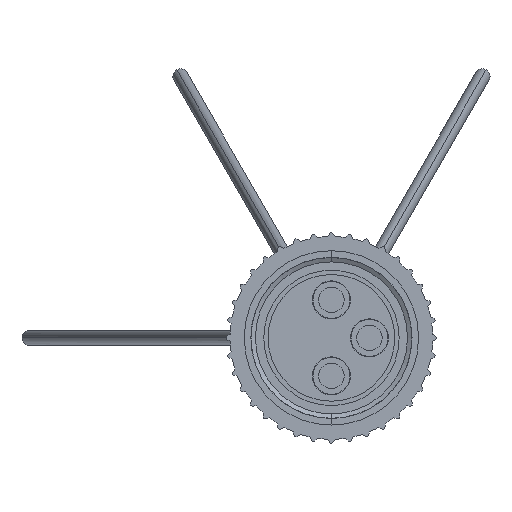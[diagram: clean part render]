
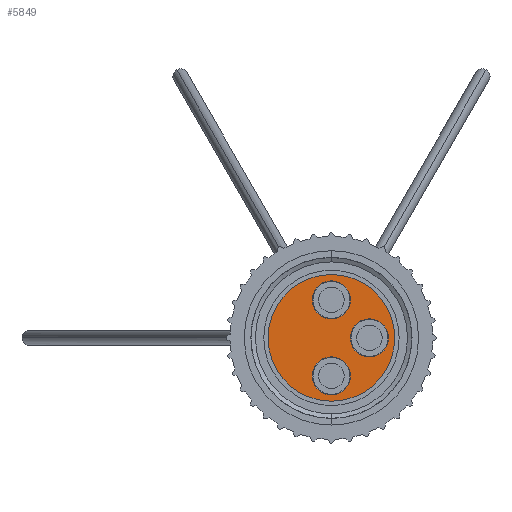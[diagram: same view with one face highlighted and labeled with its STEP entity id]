
A CAD part, front view. The second image highlights one B-rep face of the part: STEP entity #5849.
In plain terms, the highlighted planar face has unit normal (0, -1, 0).
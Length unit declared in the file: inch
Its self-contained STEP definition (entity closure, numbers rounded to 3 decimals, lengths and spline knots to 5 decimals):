
#470=CARTESIAN_POINT('',(0.,-1.37,0.));
#471=DIRECTION('',(0.,-1.,0.));
#472=DIRECTION('',(0.,0.,1.));
#473=AXIS2_PLACEMENT_3D('',#470,#471,#472);
#475=CARTESIAN_POINT('',(0.,-1.37,0.));
#476=DIRECTION('',(0.,-1.,0.));
#477=DIRECTION('',(0.,0.,-1.));
#478=AXIS2_PLACEMENT_3D('',#475,#476,#477);
#490=CARTESIAN_POINT('',(0.,-1.37,0.075));
#491=DIRECTION('',(0.,-1.,0.));
#492=DIRECTION('',(0.,0.,-1.));
#493=AXIS2_PLACEMENT_3D('',#490,#491,#492);
#495=CARTESIAN_POINT('',(0.,-1.37,0.075));
#496=DIRECTION('',(0.,-1.,0.));
#497=DIRECTION('',(0.,0.,1.));
#498=AXIS2_PLACEMENT_3D('',#495,#496,#497);
#500=CARTESIAN_POINT('',(0.075,-1.37,0.));
#501=DIRECTION('',(0.,-1.,0.));
#502=DIRECTION('',(0.,0.,-1.));
#503=AXIS2_PLACEMENT_3D('',#500,#501,#502);
#505=CARTESIAN_POINT('',(0.075,-1.37,0.));
#506=DIRECTION('',(0.,-1.,0.));
#507=DIRECTION('',(0.,0.,1.));
#508=AXIS2_PLACEMENT_3D('',#505,#506,#507);
#510=CARTESIAN_POINT('',(0.,-1.37,-0.075));
#511=DIRECTION('',(0.,-1.,0.));
#512=DIRECTION('',(0.,0.,-1.));
#513=AXIS2_PLACEMENT_3D('',#510,#511,#512);
#515=CARTESIAN_POINT('',(0.,-1.37,-0.075));
#516=DIRECTION('',(0.,-1.,0.));
#517=DIRECTION('',(0.,0.,1.));
#518=AXIS2_PLACEMENT_3D('',#515,#516,#517);
#5065=CARTESIAN_POINT('',(0.,-1.37,0.0375));
#5066=CARTESIAN_POINT('',(0.,-1.37,0.1125));
#5067=VERTEX_POINT('',#5065);
#5068=VERTEX_POINT('',#5066);
#5069=CARTESIAN_POINT('',(0.075,-1.37,-0.0375));
#5070=CARTESIAN_POINT('',(0.075,-1.37,0.0375));
#5071=VERTEX_POINT('',#5069);
#5072=VERTEX_POINT('',#5070);
#5073=CARTESIAN_POINT('',(0.,-1.37,-0.1125));
#5074=CARTESIAN_POINT('',(0.,-1.37,-0.0375));
#5075=VERTEX_POINT('',#5073);
#5076=VERTEX_POINT('',#5074);
#5210=CARTESIAN_POINT('',(0.,-1.37,0.125));
#5211=CARTESIAN_POINT('',(0.,-1.37,-0.125));
#5212=VERTEX_POINT('',#5210);
#5213=VERTEX_POINT('',#5211);
#5820=CARTESIAN_POINT('',(0.,-1.37,0.));
#5821=DIRECTION('',(0.,1.,0.));
#5822=DIRECTION('',(0.,0.,-1.));
#5823=AXIS2_PLACEMENT_3D('',#5820,#5821,#5822);
#5824=PLANE('',#5823);
#5826=ORIENTED_EDGE('',*,*,#5825,.F.);
#5828=ORIENTED_EDGE('',*,*,#5827,.F.);
#5829=EDGE_LOOP('',(#5826,#5828));
#5830=FACE_OUTER_BOUND('',#5829,.F.);
#5832=ORIENTED_EDGE('',*,*,#5831,.T.);
#5834=ORIENTED_EDGE('',*,*,#5833,.T.);
#5835=EDGE_LOOP('',(#5832,#5834));
#5836=FACE_BOUND('',#5835,.F.);
#5838=ORIENTED_EDGE('',*,*,#5837,.T.);
#5840=ORIENTED_EDGE('',*,*,#5839,.T.);
#5841=EDGE_LOOP('',(#5838,#5840));
#5842=FACE_BOUND('',#5841,.F.);
#5844=ORIENTED_EDGE('',*,*,#5843,.T.);
#5846=ORIENTED_EDGE('',*,*,#5845,.T.);
#5847=EDGE_LOOP('',(#5844,#5846));
#5848=FACE_BOUND('',#5847,.F.);
#5849=ADVANCED_FACE('',(#5830,#5836,#5842,#5848),#5824,.F.);
#474=CIRCLE('',#473,0.125);
#479=CIRCLE('',#478,0.125);
#494=CIRCLE('',#493,0.0375);
#499=CIRCLE('',#498,0.0375);
#504=CIRCLE('',#503,0.0375);
#509=CIRCLE('',#508,0.0375);
#514=CIRCLE('',#513,0.0375);
#519=CIRCLE('',#518,0.0375);
#5825=EDGE_CURVE('',#5212,#5213,#474,.T.);
#5827=EDGE_CURVE('',#5213,#5212,#479,.T.);
#5831=EDGE_CURVE('',#5067,#5068,#494,.T.);
#5833=EDGE_CURVE('',#5068,#5067,#499,.T.);
#5837=EDGE_CURVE('',#5071,#5072,#504,.T.);
#5839=EDGE_CURVE('',#5072,#5071,#509,.T.);
#5843=EDGE_CURVE('',#5075,#5076,#514,.T.);
#5845=EDGE_CURVE('',#5076,#5075,#519,.T.);
